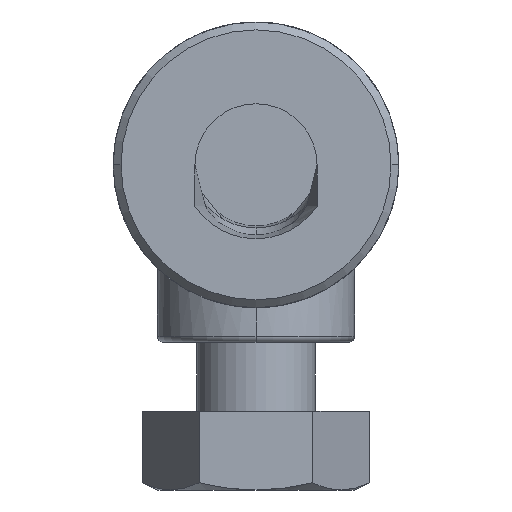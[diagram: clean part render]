
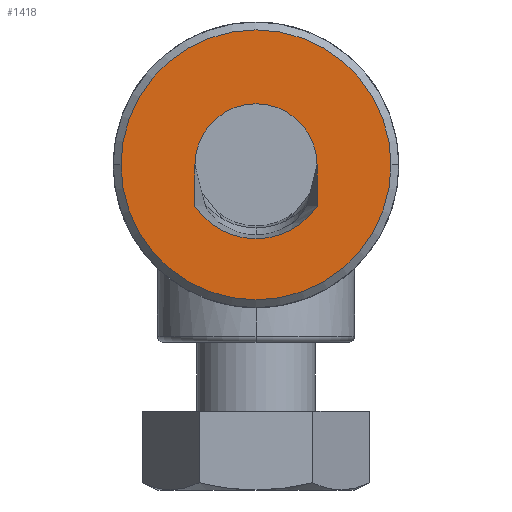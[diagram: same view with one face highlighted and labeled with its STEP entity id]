
A CAD part, front view. The second image highlights one B-rep face of the part: STEP entity #1418.
In plain terms, the highlighted planar face has unit normal (0, -1, 0).
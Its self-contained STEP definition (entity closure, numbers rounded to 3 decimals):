
#381=CARTESIAN_POINT('',(0.,0.,0.));
#382=DIRECTION('',(0.,1.,0.));
#383=DIRECTION('',(1.,0.,0.));
#384=AXIS2_PLACEMENT_3D('',#381,#382,#383);
#386=CARTESIAN_POINT('',(0.,0.,0.));
#387=DIRECTION('',(0.,1.,0.));
#388=DIRECTION('',(-1.,0.,0.));
#389=AXIS2_PLACEMENT_3D('',#386,#387,#388);
#391=DIRECTION('',(0.,0.,1.));
#392=VECTOR('',#391,2.11);
#393=CARTESIAN_POINT('',(3.1,0.,-2.11));
#394=LINE('',#393,#392);
#395=CARTESIAN_POINT('',(0.,0.,0.));
#396=DIRECTION('',(0.,-1.,0.));
#397=DIRECTION('',(1.,0.,0.));
#398=AXIS2_PLACEMENT_3D('',#395,#396,#397);
#400=DIRECTION('',(0.,0.,-1.));
#401=VECTOR('',#400,2.11);
#402=CARTESIAN_POINT('',(-3.1,0.,0.));
#403=LINE('',#402,#401);
#404=CARTESIAN_POINT('',(0.,0.,0.));
#405=DIRECTION('',(0.,1.,0.));
#406=DIRECTION('',(0.827,0.,-0.563));
#407=AXIS2_PLACEMENT_3D('',#404,#405,#406);
#1059=CARTESIAN_POINT('',(6.85,0.,0.));
#1060=CARTESIAN_POINT('',(-6.85,0.,0.));
#1061=VERTEX_POINT('',#1059);
#1062=VERTEX_POINT('',#1060);
#1071=CARTESIAN_POINT('',(3.1,0.,0.));
#1072=CARTESIAN_POINT('',(-3.1,0.,0.));
#1073=VERTEX_POINT('',#1071);
#1074=VERTEX_POINT('',#1072);
#1075=CARTESIAN_POINT('',(3.1,0.,-2.11));
#1076=CARTESIAN_POINT('',(-3.1,0.,-2.11));
#1077=VERTEX_POINT('',#1075);
#1078=VERTEX_POINT('',#1076);
#1400=CARTESIAN_POINT('',(0.,0.,0.));
#1401=DIRECTION('',(0.,1.,0.));
#1402=DIRECTION('',(1.,0.,0.));
#1403=AXIS2_PLACEMENT_3D('',#1400,#1401,#1402);
#1404=PLANE('',#1403);
#1405=ORIENTED_EDGE('',*,*,#1180,.T.);
#1406=ORIENTED_EDGE('',*,*,#1165,.T.);
#1407=EDGE_LOOP('',(#1405,#1406));
#1408=FACE_OUTER_BOUND('',#1407,.F.);
#1410=ORIENTED_EDGE('',*,*,#1409,.T.);
#1412=ORIENTED_EDGE('',*,*,#1411,.T.);
#1414=ORIENTED_EDGE('',*,*,#1413,.T.);
#1415=ORIENTED_EDGE('',*,*,#1385,.F.);
#1416=EDGE_LOOP('',(#1410,#1412,#1414,#1415));
#1417=FACE_BOUND('',#1416,.F.);
#1418=ADVANCED_FACE('',(#1408,#1417),#1404,.F.);
#385=CIRCLE('',#384,6.85);
#390=CIRCLE('',#389,6.85);
#399=CIRCLE('',#398,3.1);
#408=CIRCLE('',#407,3.75);
#1165=EDGE_CURVE('',#1062,#1061,#390,.T.);
#1180=EDGE_CURVE('',#1061,#1062,#385,.T.);
#1385=EDGE_CURVE('',#1077,#1078,#408,.T.);
#1409=EDGE_CURVE('',#1077,#1073,#394,.T.);
#1411=EDGE_CURVE('',#1073,#1074,#399,.T.);
#1413=EDGE_CURVE('',#1074,#1078,#403,.T.);
